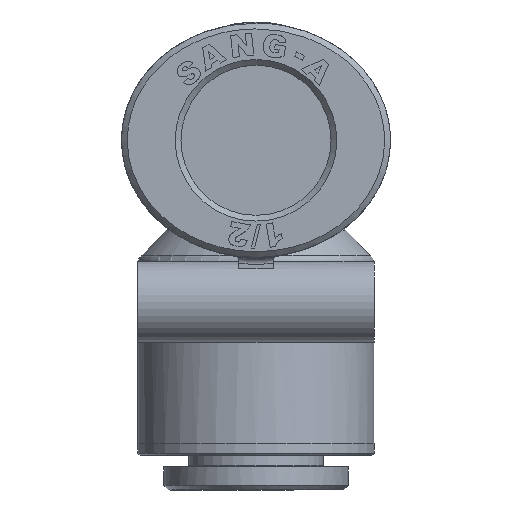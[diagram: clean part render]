
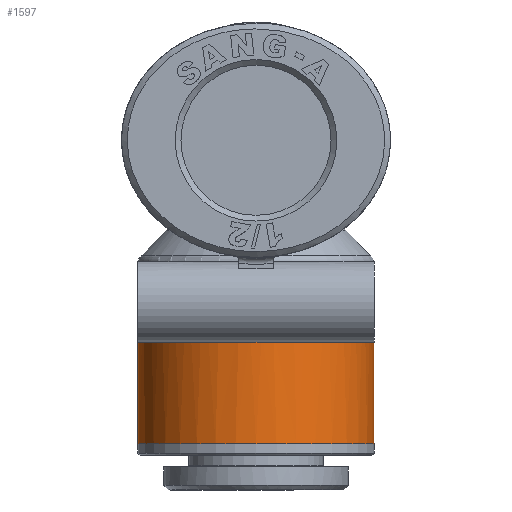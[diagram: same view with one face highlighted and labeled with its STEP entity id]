
A CAD part, left-side view. The second image highlights one B-rep face of the part: STEP entity #1597.
In plain terms, the highlighted cylindrical face has radius 10.25 mm (diameter 20.5 mm), a full revolution.
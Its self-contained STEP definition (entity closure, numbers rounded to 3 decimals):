
#506=CARTESIAN_POINT('',(10.14,1.5,-16.5));
#507=VERTEX_POINT('',#506);
#532=CARTESIAN_POINT('',(10.14,-1.5,-16.5));
#533=VERTEX_POINT('',#532);
#547=CARTESIAN_POINT('',(0.,0.,-16.5));
#548=DIRECTION('',(0.0,0.0,1.0));
#549=DIRECTION('',(1.0,0.0,0.0));
#550=AXIS2_PLACEMENT_3D('',#547,#548,#549);
#551=CIRCLE('',#550,10.25);
#552=EDGE_CURVE('',#533,#507,#551,.T.);
#680=CARTESIAN_POINT('',(-10.14,-1.5,-16.5));
#681=VERTEX_POINT('',#680);
#706=CARTESIAN_POINT('',(-10.14,1.5,-16.5));
#707=VERTEX_POINT('',#706);
#721=CARTESIAN_POINT('',(0.,0.,-16.5));
#722=DIRECTION('',(0.0,0.0,1.0));
#723=DIRECTION('',(-1.0,0.0,0.0));
#724=AXIS2_PLACEMENT_3D('',#721,#722,#723);
#725=CIRCLE('',#724,10.25);
#726=EDGE_CURVE('',#707,#681,#725,.T.);
#767=CARTESIAN_POINT('',(-10.14,1.5,-10.709));
#768=VERTEX_POINT('',#767);
#769=CARTESIAN_POINT('',(-10.14,1.5,-16.5));
#770=DIRECTION('',(0.0,0.0,1.0));
#771=VECTOR('',#770,5.791);
#772=LINE('',#769,#771);
#773=EDGE_CURVE('',#707,#768,#772,.T.);
#874=CARTESIAN_POINT('',(-10.14,-1.5,-10.709));
#875=VERTEX_POINT('',#874);
#876=CARTESIAN_POINT('',(-10.14,-1.5,-10.709));
#877=DIRECTION('',(0.0,0.0,-1.0));
#878=VECTOR('',#877,5.791);
#879=LINE('',#876,#878);
#880=EDGE_CURVE('',#875,#681,#879,.T.);
#1052=CARTESIAN_POINT('',(10.14,-1.5,-10.709));
#1053=VERTEX_POINT('',#1052);
#1063=CARTESIAN_POINT('',(10.14,-1.5,-16.5));
#1064=DIRECTION('',(0.0,0.0,1.0));
#1065=VECTOR('',#1064,5.791);
#1066=LINE('',#1063,#1065);
#1067=EDGE_CURVE('',#533,#1053,#1066,.T.);
#1107=CARTESIAN_POINT('',(10.14,1.5,-10.709));
#1108=VERTEX_POINT('',#1107);
#1109=CARTESIAN_POINT('',(10.14,1.5,-10.709));
#1110=DIRECTION('',(0.0,0.0,-1.0));
#1111=VECTOR('',#1110,5.791);
#1112=LINE('',#1109,#1111);
#1113=EDGE_CURVE('',#1108,#507,#1112,.T.);
#1359=CARTESIAN_POINT('',(0.,0.,-10.709));
#1360=DIRECTION('',(0.0,0.0,1.0));
#1361=DIRECTION('',(0.0,-1.0,0.0));
#1362=AXIS2_PLACEMENT_3D('',#1359,#1360,#1361);
#1363=CIRCLE('',#1362,10.25);
#1364=EDGE_CURVE('',#1108,#768,#1363,.T.);
#1549=CARTESIAN_POINT('',(0.,0.,-10.709));
#1550=DIRECTION('',(0.0,0.0,1.0));
#1551=DIRECTION('',(0.0,-1.0,0.0));
#1552=AXIS2_PLACEMENT_3D('',#1549,#1550,#1551);
#1553=CIRCLE('',#1552,10.25);
#1554=EDGE_CURVE('',#875,#1053,#1553,.T.);
#1571=CARTESIAN_POINT('',(0.,0.,-18.3));
#1572=DIRECTION('',(0.,0.,1.0));
#1573=DIRECTION('',(0.0,1.0,0.0));
#1574=AXIS2_PLACEMENT_3D('',#1571,#1572,#1573);
#1575=CYLINDRICAL_SURFACE('',#1574,10.25);
#1576=ORIENTED_EDGE('',*,*,#1067,.T.);
#1577=ORIENTED_EDGE('',*,*,#1554,.F.);
#1578=ORIENTED_EDGE('',*,*,#880,.T.);
#1579=ORIENTED_EDGE('',*,*,#726,.F.);
#1580=ORIENTED_EDGE('',*,*,#773,.T.);
#1581=ORIENTED_EDGE('',*,*,#1364,.F.);
#1582=ORIENTED_EDGE('',*,*,#1113,.T.);
#1583=ORIENTED_EDGE('',*,*,#552,.F.);
#1584=EDGE_LOOP('',(#1576,#1577,#1578,#1579,#1580,#1581,#1582,#1583));
#1585=FACE_OUTER_BOUND('',#1584,.T.);
#1586=CARTESIAN_POINT('',(0.,10.25,-26.3));
#1587=VERTEX_POINT('',#1586);
#1588=CARTESIAN_POINT('',(0.,0.,-26.3));
#1589=DIRECTION('',(0.0,0.0,1.0));
#1590=DIRECTION('',(0.0,1.0,0.0));
#1591=AXIS2_PLACEMENT_3D('',#1588,#1589,#1590);
#1592=CIRCLE('',#1591,10.25);
#1593=EDGE_CURVE('',#1587,#1587,#1592,.T.);
#1594=ORIENTED_EDGE('',*,*,#1593,.T.);
#1595=EDGE_LOOP('',(#1594));
#1596=FACE_BOUND('',#1595,.T.);
#1597=ADVANCED_FACE('',(#1585,#1596),#1575,.T.);
